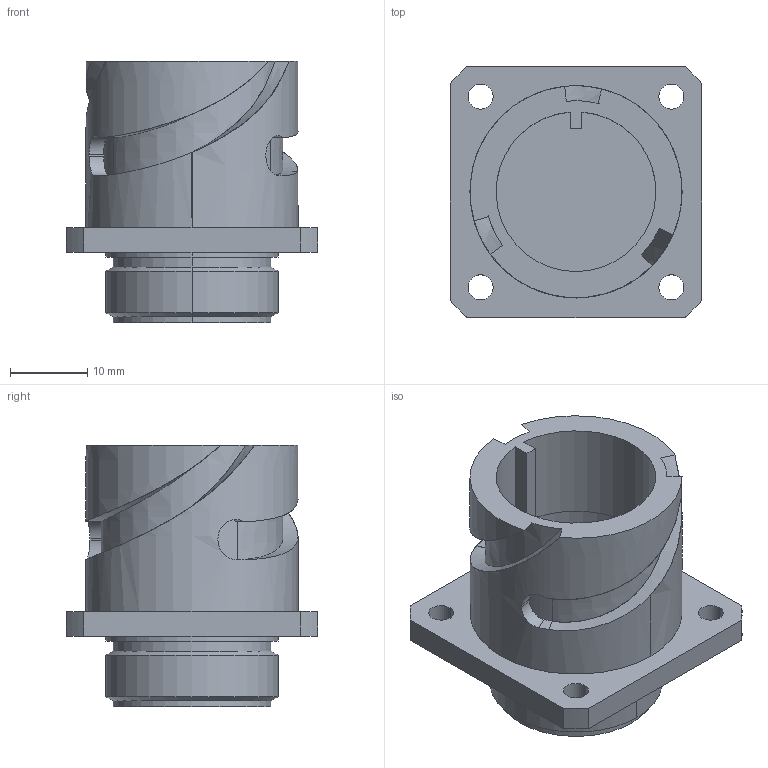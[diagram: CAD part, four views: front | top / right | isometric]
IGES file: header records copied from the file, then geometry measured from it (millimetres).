
Start section:  PTC IGES file: gt030_16_shell.igs
Global section: file name: gt030_16_shell.igs; native system: Creo Parametric by PTC Inc.; preprocessor: 2016260; author: t-nakamura; organization: Unknown; date: 20170622.203616; units: inch
Bounding box: 32.51 x 32.51 x 33.81 mm (x, y, z)
Surface area: 7030.1 mm2 (no closed solid volume)
Topology: 0 solids, 0 shells, 73 faces, 360 edges, 360 vertices
Faces by surface type: revolution 37, bspline 36
